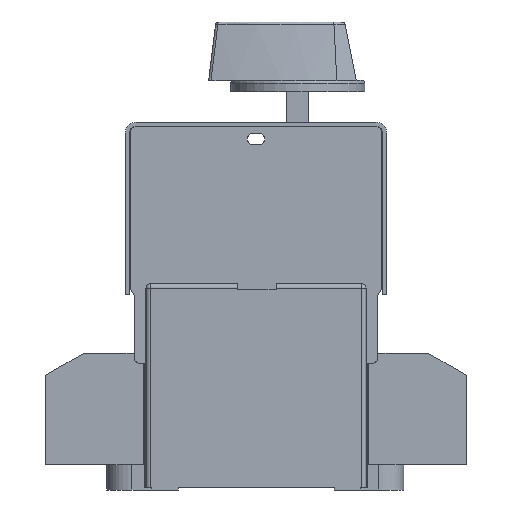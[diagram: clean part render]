
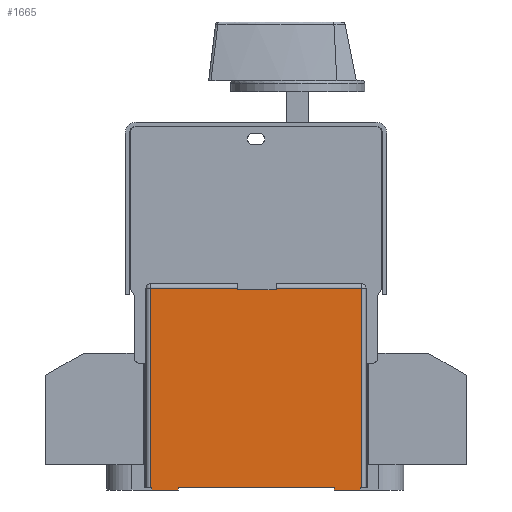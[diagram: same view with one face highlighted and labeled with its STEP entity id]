
A CAD part, left-side view. The second image highlights one B-rep face of the part: STEP entity #1665.
In plain terms, the highlighted planar face has unit normal (-1, 0, 0).
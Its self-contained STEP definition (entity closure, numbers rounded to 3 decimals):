
#1665=ADVANCED_FACE('',(#3598),#2824,.F.);
#2824=PLANE('',#23424);
#3598=FACE_OUTER_BOUND('',#4694,.T.);
#4694=EDGE_LOOP('',(#6631,#6632,#6633,#6634,#6635,#6636,#6637,#6638,#6639,
#6640,#6641,#6642,#6643,#6644,#6645,#6646));
#6631=ORIENTED_EDGE('',*,*,#15317,.F.);
#6632=ORIENTED_EDGE('',*,*,#15318,.T.);
#6633=ORIENTED_EDGE('',*,*,#15319,.T.);
#6634=ORIENTED_EDGE('',*,*,#15098,.F.);
#6635=ORIENTED_EDGE('',*,*,#15320,.T.);
#6636=ORIENTED_EDGE('',*,*,#15321,.T.);
#6637=ORIENTED_EDGE('',*,*,#15315,.T.);
#6638=ORIENTED_EDGE('',*,*,#15201,.T.);
#6639=ORIENTED_EDGE('',*,*,#14961,.F.);
#6640=ORIENTED_EDGE('',*,*,#15322,.F.);
#6641=ORIENTED_EDGE('',*,*,#15323,.T.);
#6642=ORIENTED_EDGE('',*,*,#15107,.T.);
#6643=ORIENTED_EDGE('',*,*,#15324,.F.);
#6644=ORIENTED_EDGE('',*,*,#15325,.F.);
#6645=ORIENTED_EDGE('',*,*,#14977,.T.);
#6646=ORIENTED_EDGE('',*,*,#15213,.T.);
#12774=VERTEX_POINT('',#31570);
#12775=VERTEX_POINT('',#31572);
#12788=VERTEX_POINT('',#31603);
#12789=VERTEX_POINT('',#31605);
#12888=VERTEX_POINT('',#31853);
#12890=VERTEX_POINT('',#31857);
#12897=VERTEX_POINT('',#31875);
#12898=VERTEX_POINT('',#31877);
#12977=VERTEX_POINT('',#32064);
#12985=VERTEX_POINT('',#32086);
#13048=VERTEX_POINT('',#32284);
#13049=VERTEX_POINT('',#32288);
#13050=VERTEX_POINT('',#32290);
#13051=VERTEX_POINT('',#32293);
#13052=VERTEX_POINT('',#32296);
#13053=VERTEX_POINT('',#32299);
#14961=EDGE_CURVE('',#12774,#12775,#18285,.T.);
#14977=EDGE_CURVE('',#12789,#12788,#18300,.T.);
#15098=EDGE_CURVE('',#12890,#12888,#18408,.T.);
#15107=EDGE_CURVE('',#12898,#12897,#18417,.T.);
#15201=EDGE_CURVE('',#12977,#12775,#18490,.T.);
#15213=EDGE_CURVE('',#12788,#12985,#18498,.T.);
#15315=EDGE_CURVE('',#13048,#12977,#18586,.T.);
#15317=EDGE_CURVE('',#13049,#12985,#18587,.T.);
#15318=EDGE_CURVE('',#13049,#13050,#18588,.T.);
#15319=EDGE_CURVE('',#13050,#12888,#18589,.T.);
#15320=EDGE_CURVE('',#12890,#13051,#18590,.T.);
#15321=EDGE_CURVE('',#13051,#13048,#18591,.T.);
#15322=EDGE_CURVE('',#13052,#12774,#18592,.T.);
#15323=EDGE_CURVE('',#13052,#12898,#18593,.T.);
#15324=EDGE_CURVE('',#13053,#12897,#18594,.T.);
#15325=EDGE_CURVE('',#12789,#13053,#18595,.T.);
#18285=LINE('',#31571,#20812);
#18300=LINE('',#31604,#20827);
#18408=LINE('',#31858,#20935);
#18417=LINE('',#31876,#20944);
#18490=LINE('',#32063,#21017);
#18498=LINE('',#32087,#21025);
#18586=LINE('',#32283,#21113);
#18587=LINE('',#32287,#21114);
#18588=LINE('',#32289,#21115);
#18589=LINE('',#32291,#21116);
#18590=LINE('',#32292,#21117);
#18591=LINE('',#32294,#21118);
#18592=LINE('',#32295,#21119);
#18593=LINE('',#32297,#21120);
#18594=LINE('',#32298,#21121);
#18595=LINE('',#32300,#21122);
#20812=VECTOR('',#25285,1.);
#20827=VECTOR('',#25308,1.);
#20935=VECTOR('',#25488,1.);
#20944=VECTOR('',#25501,1.);
#21017=VECTOR('',#25644,1.);
#21025=VECTOR('',#25666,1.);
#21113=VECTOR('',#25846,1.);
#21114=VECTOR('',#25851,1.);
#21115=VECTOR('',#25852,1.);
#21116=VECTOR('',#25853,1.);
#21117=VECTOR('',#25854,1.);
#21118=VECTOR('',#25855,1.);
#21119=VECTOR('',#25856,1.);
#21120=VECTOR('',#25857,1.);
#21121=VECTOR('',#25858,1.);
#21122=VECTOR('',#25859,1.);
#23424=AXIS2_PLACEMENT_3D('',#32301,#25860,#25861);
#25285=DIRECTION('',(0.,0.,1.));
#25308=DIRECTION('',(0.,0.,1.));
#25488=DIRECTION('',(0.,-1.,0.));
#25501=DIRECTION('',(0.,-1.,0.));
#25644=DIRECTION('',(0.,-1.,0.));
#25666=DIRECTION('',(0.,-1.,0.));
#25846=DIRECTION('',(0.,0.,-1.));
#25851=DIRECTION('',(0.,0.,-1.));
#25852=DIRECTION('',(0.,1.,0.));
#25853=DIRECTION('',(0.,0.,-1.));
#25854=DIRECTION('',(0.,0.,1.));
#25855=DIRECTION('',(0.,1.,0.));
#25856=DIRECTION('',(0.,1.,0.));
#25857=DIRECTION('',(0.,0.,1.));
#25858=DIRECTION('',(0.,0.,1.));
#25859=DIRECTION('',(0.,1.,0.));
#25860=DIRECTION('',(1.,0.,0.));
#25861=DIRECTION('',(0.,0.,-1.));
#31570=CARTESIAN_POINT('',(-69.,12.765,-4.9));
#31571=CARTESIAN_POINT('',(-69.,12.765,-5.9));
#31572=CARTESIAN_POINT('',(-69.,12.765,-3.9));
#31603=CARTESIAN_POINT('',(-69.,-62.235,-3.9));
#31604=CARTESIAN_POINT('',(-69.,-62.235,-5.9));
#31605=CARTESIAN_POINT('',(-69.,-62.235,-4.9));
#31853=CARTESIAN_POINT('',(-69.,-31.985,67.));
#31857=CARTESIAN_POINT('',(-69.,-17.985,67.));
#31858=CARTESIAN_POINT('',(-69.,12.765,67.));
#31875=CARTESIAN_POINT('',(-69.,-52.735,-3.9));
#31876=CARTESIAN_POINT('',(-69.,-62.235,-3.9));
#31877=CARTESIAN_POINT('',(-69.,3.265,-3.9));
#32063=CARTESIAN_POINT('',(-69.,-62.235,-3.9));
#32064=CARTESIAN_POINT('',(-69.,13.265,-3.9));
#32086=CARTESIAN_POINT('',(-69.,-62.735,-3.9));
#32087=CARTESIAN_POINT('',(-69.,-62.235,-3.9));
#32283=CARTESIAN_POINT('',(-69.,13.265,69.1));
#32284=CARTESIAN_POINT('',(-69.,13.265,67.6));
#32287=CARTESIAN_POINT('',(-69.,-62.735,69.1));
#32288=CARTESIAN_POINT('',(-69.,-62.735,67.6));
#32289=CARTESIAN_POINT('',(-69.,13.265,67.6));
#32290=CARTESIAN_POINT('',(-69.,-31.985,67.6));
#32291=CARTESIAN_POINT('',(-69.,-31.985,69.1));
#32292=CARTESIAN_POINT('',(-69.,-17.985,69.1));
#32293=CARTESIAN_POINT('',(-69.,-17.985,67.6));
#32294=CARTESIAN_POINT('',(-69.,13.265,67.6));
#32295=CARTESIAN_POINT('',(-69.,3.265,-4.9));
#32296=CARTESIAN_POINT('',(-69.,3.265,-4.9));
#32297=CARTESIAN_POINT('',(-69.,3.265,-5.9));
#32298=CARTESIAN_POINT('',(-69.,-52.735,-5.9));
#32299=CARTESIAN_POINT('',(-69.,-52.735,-4.9));
#32300=CARTESIAN_POINT('',(-69.,-62.235,-4.9));
#32301=CARTESIAN_POINT('',(-69.,-62.235,69.1));
